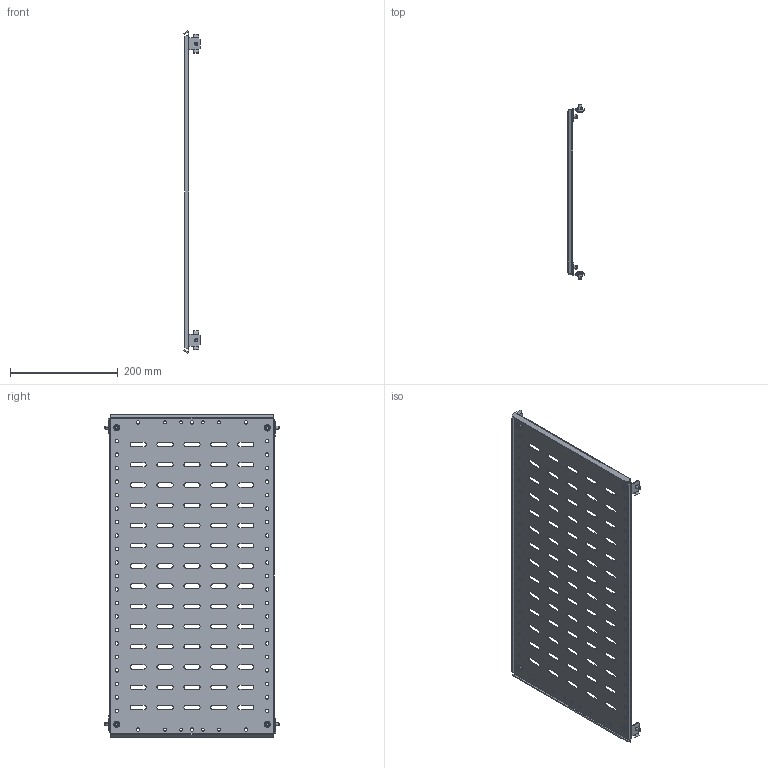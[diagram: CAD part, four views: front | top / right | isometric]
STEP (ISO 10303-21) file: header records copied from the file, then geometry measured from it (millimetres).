
FILE_DESCRIPTION (( 'STEP AP214' ), '1' );
FILE_NAME ('FO-00-SWF-060-040 Ïåðåãîðîäêà ñåêöèîíèðîâàíèÿ çàäíÿÿ 600õ400 ìì.STEP', '2025-08-12T08:39:30', ( '' ), ( '' ), 'SwSTEP 2.0', 'SolidWorks 2023', '' );
FILE_SCHEMA (( 'AUTOMOTIVE_DESIGN' ));
Length unit declared in the file: millimetre
Products named in the file (1): FO-00-SWF-060-040 Перегородка секционирования задняя 600х400 мм
Bounding box: 30.52 x 324 x 597.66 mm (x, y, z)
Volume: 278927 mm3; surface area: 375422.4 mm2
Topology: 1 solids, 5 shells, 866 faces, 2440 edges, 1604 vertices
Faces by surface type: cylinder 498, plane 312, torus 24, cone 24, sphere 8
Entity records: 28959 total; most frequent: CARTESIAN_POINT 5179, DIRECTION 5118, ORIENTED_EDGE 4880, EDGE_CURVE 2440, AXIS2_PLACEMENT_3D 1879, VERTEX_POINT 1604, LINE 1360, VECTOR 1360
